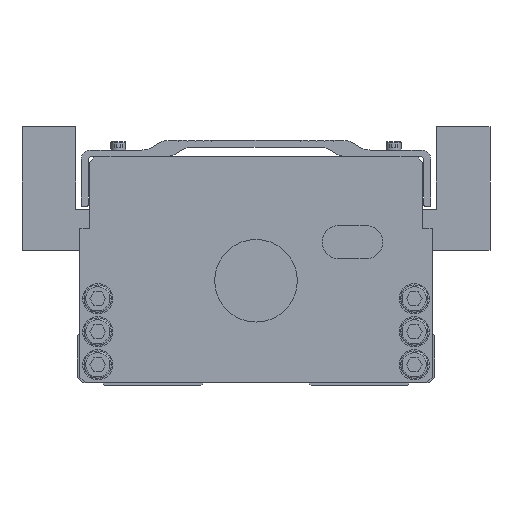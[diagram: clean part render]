
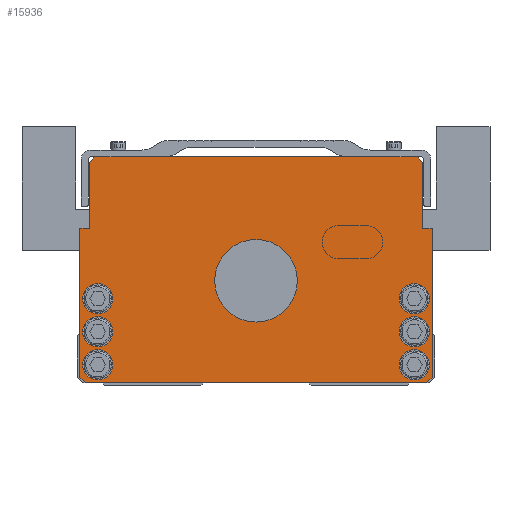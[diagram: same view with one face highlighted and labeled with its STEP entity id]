
A CAD part, front view. The second image highlights one B-rep face of the part: STEP entity #15936.
In plain terms, the highlighted planar face has unit normal (0, -1, 0).
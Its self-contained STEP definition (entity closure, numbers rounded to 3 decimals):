
#6784=EDGE_CURVE('',#8610,#8652,#20071,.T.);
#6918=VERTEX_POINT('',#20218);
#6992=EDGE_CURVE('',#11172,#10108,#20296,.T.);
#7162=VERTEX_POINT('',#20483);
#7318=EDGE_CURVE('',#9344,#11174,#20656,.T.);
#7704=VERTEX_POINT('',#21116);
#8096=EDGE_CURVE('',#18146,#16924,#21549,.T.);
#8196=VERTEX_POINT('',#21657);
#8372=EDGE_CURVE('',#8652,#8610,#21855,.T.);
#8610=VERTEX_POINT('',#22111);
#8652=VERTEX_POINT('',#22158);
#8774=EDGE_CURVE('',#10430,#9560,#22291,.T.);
#8956=EDGE_CURVE('',#9560,#10430,#22495,.T.);
#9200=EDGE_CURVE('',#19040,#7704,#22783,.T.);
#9326=VERTEX_POINT('',#22927);
#9344=VERTEX_POINT('',#22946);
#9560=VERTEX_POINT('',#23188);
#10104=EDGE_CURVE('',#16924,#18146,#23791,.T.);
#10108=VERTEX_POINT('',#23796);
#10346=EDGE_CURVE('',#7162,#9326,#24056,.T.);
#10430=VERTEX_POINT('',#24150);
#10480=EDGE_CURVE('',#15694,#11172,#24205,.T.);
#10570=EDGE_CURVE('',#9326,#7162,#24308,.T.);
#10592=EDGE_CURVE('',#8196,#14410,#24332,.T.);
#10918=EDGE_CURVE('',#6918,#14068,#24691,.T.);
#11172=VERTEX_POINT('',#24967);
#11174=VERTEX_POINT('',#24969);
#11622=EDGE_CURVE('',#14492,#14694,#25456,.T.);
#12218=VERTEX_POINT('',#26111);
#12372=EDGE_CURVE('',#14068,#18858,#26284,.T.);
#12902=EDGE_CURVE('',#18858,#19040,#26872,.T.);
#13108=VERTEX_POINT('',#27103);
#13190=EDGE_CURVE('',#18970,#6918,#27197,.T.);
#13334=VERTEX_POINT('',#27361);
#13354=EDGE_CURVE('',#13108,#18970,#27384,.T.);
#13604=EDGE_CURVE('',#10108,#17008,#27666,.T.);
#14068=VERTEX_POINT('',#28181);
#14410=VERTEX_POINT('',#28573);
#14492=VERTEX_POINT('',#28668);
#14694=VERTEX_POINT('',#28891);
#14752=EDGE_CURVE('',#14694,#14492,#28955,.T.);
#15694=VERTEX_POINT('',#30018);
#15936=ADVANCED_FACE('',(#30286,#30287,#30288,#30289,#30290,#30291,#30292,#30293),#30294,.T.);
#16068=EDGE_CURVE('',#12218,#18790,#30442,.T.);
#16620=EDGE_CURVE('',#17008,#8196,#31047,.T.);
#16924=VERTEX_POINT('',#31383);
#17008=VERTEX_POINT('',#31477);
#17566=EDGE_CURVE('',#13334,#15694,#32095,.T.);
#17992=EDGE_CURVE('',#14410,#13108,#32565,.T.);
#18146=VERTEX_POINT('',#32732);
#18148=EDGE_CURVE('',#11174,#9344,#32734,.T.);
#18790=VERTEX_POINT('',#33448);
#18858=VERTEX_POINT('',#33522);
#18970=VERTEX_POINT('',#33645);
#19040=VERTEX_POINT('',#33722);
#19338=EDGE_CURVE('',#18790,#12218,#34061,.T.);
#19810=EDGE_CURVE('',#7704,#13334,#34589,.T.);
#20071=CIRCLE('',#34901,15.0);
#20218=CARTESIAN_POINT('',(-33.25,0.0,83.0));
#20296=LINE('',#35211,#35212);
#20483=CARTESIAN_POINT('',(-63.0,0.0,31.5));
#20656=CIRCLE('',#35713,5.5);
#21116=CARTESIAN_POINT('',(60.5,0.0,57.0));
#21549=CIRCLE('',#36912,5.5);
#21657=CARTESIAN_POINT('',(-64.0,0.0,57.0));
#21855=CIRCLE('',#37358,15.0);
#22111=CARTESIAN_POINT('',(15.0,0.0,38.0));
#22158=CARTESIAN_POINT('',(-15.0,0.0,38.0));
#22291=CIRCLE('',#37969,5.5);
#22495=CIRCLE('',#38250,5.5);
#22783=LINE('',#38624,#38625);
#22927=CARTESIAN_POINT('',(-52.0,0.0,31.5));
#22946=CARTESIAN_POINT('',(-63.0,0.0,7.5));
#23188=CARTESIAN_POINT('',(63.0,0.0,19.5));
#23791=CIRCLE('',#40003,5.5);
#23796=CARTESIAN_POINT('',(-62.0,0.0,1.0));
#24056=CIRCLE('',#40361,5.5);
#24150=CARTESIAN_POINT('',(52.0,0.0,19.5));
#24205=LINE('',#40564,#40565);
#24308=CIRCLE('',#40709,5.5);
#24332=LINE('',#40743,#40744);
#24691=LINE('',#41240,#41241);
#24967=CARTESIAN_POINT('',(62.0,0.0,1.0));
#24969=CARTESIAN_POINT('',(-52.0,0.0,7.5));
#25456=CIRCLE('',#42335,5.5);
#26111=CARTESIAN_POINT('',(63.0,0.0,31.5));
#26284=LINE('',#43502,#43503);
#26872=LINE('',#44287,#44288);
#27103=CARTESIAN_POINT('',(-60.5,0.0,81.0));
#27197=LINE('',#44721,#44722);
#27361=CARTESIAN_POINT('',(64.0,0.0,57.0));
#27384=LINE('',#44973,#44974);
#27666=LINE('',#45369,#45370);
#28181=CARTESIAN_POINT('',(33.25,0.0,83.0));
#28573=CARTESIAN_POINT('',(-60.5,0.0,57.0));
#28668=CARTESIAN_POINT('',(63.0,0.0,7.5));
#28891=CARTESIAN_POINT('',(52.0,0.0,7.5));
#28955=CIRCLE('',#47121,5.5);
#30018=CARTESIAN_POINT('',(64.0,0.0,3.0));
#30286=FACE_BOUND('',#48952,.T.);
#30287=FACE_BOUND('',#48953,.T.);
#30288=FACE_BOUND('',#48954,.T.);
#30289=FACE_BOUND('',#48955,.T.);
#30290=FACE_BOUND('',#48956,.T.);
#30291=FACE_BOUND('',#48957,.T.);
#30292=FACE_BOUND('',#48958,.T.);
#30293=FACE_OUTER_BOUND('',#48959,.T.);
#30294=PLANE('',#48960);
#30442=CIRCLE('',#49171,5.5);
#31047=LINE('',#50052,#50053);
#31383=CARTESIAN_POINT('',(-63.0,0.0,19.5));
#31477=CARTESIAN_POINT('',(-64.0,0.0,3.0));
#32095=LINE('',#51492,#51493);
#32565=LINE('',#52135,#52136);
#32732=CARTESIAN_POINT('',(-52.0,0.0,19.5));
#32734=CIRCLE('',#52364,5.5);
#33448=CARTESIAN_POINT('',(52.0,0.0,31.5));
#33522=CARTESIAN_POINT('',(58.5,0.0,83.0));
#33645=CARTESIAN_POINT('',(-58.5,0.0,83.0));
#33722=CARTESIAN_POINT('',(60.5,0.0,81.0));
#34061=CIRCLE('',#54191,5.5);
#34589=LINE('',#54908,#54909);
#34901=AXIS2_PLACEMENT_3D('',#55213,#55214,#55215);
#35211=CARTESIAN_POINT('',(-62.0,0.0,1.0));
#35212=VECTOR('',#55404,1.0);
#35713=AXIS2_PLACEMENT_3D('',#55842,#55843,#55844);
#36912=AXIS2_PLACEMENT_3D('',#56830,#56831,#56832);
#37358=AXIS2_PLACEMENT_3D('',#57194,#57195,#57196);
#37969=AXIS2_PLACEMENT_3D('',#57626,#57627,#57628);
#38250=AXIS2_PLACEMENT_3D('',#57870,#57871,#57872);
#38624=CARTESIAN_POINT('',(60.5,0.0,57.0));
#38625=VECTOR('',#58317,1.0);
#40003=AXIS2_PLACEMENT_3D('',#59482,#59483,#59484);
#40361=AXIS2_PLACEMENT_3D('',#59806,#59807,#59808);
#40564=CARTESIAN_POINT('',(62.0,0.0,1.0));
#40565=VECTOR('',#60002,1.);
#40709=AXIS2_PLACEMENT_3D('',#60142,#60143,#60144);
#40743=CARTESIAN_POINT('',(-60.5,0.0,57.0));
#40744=VECTOR('',#60174,1.0);
#41240=CARTESIAN_POINT('',(58.5,0.0,83.0));
#41241=VECTOR('',#60618,1.0);
#42335=AXIS2_PLACEMENT_3D('',#61433,#61434,#61435);
#43502=CARTESIAN_POINT('',(58.5,0.0,83.0));
#43503=VECTOR('',#62322,1.0);
#44287=CARTESIAN_POINT('',(60.5,0.0,81.0));
#44288=VECTOR('',#62954,1.);
#44721=CARTESIAN_POINT('',(58.5,0.0,83.0));
#44722=VECTOR('',#63364,1.0);
#44973=CARTESIAN_POINT('',(-58.5,0.0,83.0));
#44974=VECTOR('',#63633,1.);
#45369=CARTESIAN_POINT('',(-64.0,0.0,3.0));
#45370=VECTOR('',#63961,1.);
#47121=AXIS2_PLACEMENT_3D('',#65403,#65404,#65405);
#48952=EDGE_LOOP('',(#67008,#67009));
#48953=EDGE_LOOP('',(#67010,#67011));
#48954=EDGE_LOOP('',(#67012,#67013));
#48955=EDGE_LOOP('',(#67014,#67015));
#48956=EDGE_LOOP('',(#67016,#67017));
#48957=EDGE_LOOP('',(#67018,#67019));
#48958=EDGE_LOOP('',(#67020,#67021));
#48959=EDGE_LOOP('',(#67022,#67023,#67024,#67025,#67026,#67027,#67028,#67029,#67030,#67031,#67032,#67033,#67034,#67035));
#48960=AXIS2_PLACEMENT_3D('',#67036,#67037,#67038);
#49171=AXIS2_PLACEMENT_3D('',#67228,#67229,#67230);
#50052=CARTESIAN_POINT('',(-64.0,0.0,57.0));
#50053=VECTOR('',#67924,1.0);
#51492=CARTESIAN_POINT('',(64.0,0.0,3.0));
#51493=VECTOR('',#69090,1.0);
#52135=CARTESIAN_POINT('',(-60.5,0.0,81.0));
#52136=VECTOR('',#69628,1.0);
#52364=AXIS2_PLACEMENT_3D('',#69785,#69786,#69787);
#54191=AXIS2_PLACEMENT_3D('',#71371,#71372,#71373);
#54908=CARTESIAN_POINT('',(64.0,0.0,57.0));
#54909=VECTOR('',#71999,1.0);
#55213=CARTESIAN_POINT('',(0.0,0.0,38.0));
#55214=DIRECTION('',(-0.0,1.0,0.0));
#55215=DIRECTION('',(1.0,0.0,0.0));
#55404=DIRECTION('',(-1.0,0.0,-0.0));
#55842=CARTESIAN_POINT('',(-57.5,0.0,7.5));
#55843=DIRECTION('',(-0.0,1.0,0.0));
#55844=DIRECTION('',(1.0,0.0,0.0));
#56830=CARTESIAN_POINT('',(-57.5,0.0,19.5));
#56831=DIRECTION('',(-0.0,1.0,0.0));
#56832=DIRECTION('',(1.0,0.0,0.0));
#57194=CARTESIAN_POINT('',(0.0,0.0,38.0));
#57195=DIRECTION('',(-0.0,1.0,0.0));
#57196=DIRECTION('',(1.0,0.0,0.0));
#57626=CARTESIAN_POINT('',(57.5,0.0,19.5));
#57627=DIRECTION('',(-0.0,1.0,0.0));
#57628=DIRECTION('',(1.0,0.0,0.0));
#57870=CARTESIAN_POINT('',(57.5,0.0,19.5));
#57871=DIRECTION('',(-0.0,1.0,0.0));
#57872=DIRECTION('',(1.0,0.0,0.0));
#58317=DIRECTION('',(-0.0,0.0,-1.0));
#59482=CARTESIAN_POINT('',(-57.5,0.0,19.5));
#59483=DIRECTION('',(-0.0,1.0,0.0));
#59484=DIRECTION('',(1.0,0.0,0.0));
#59806=CARTESIAN_POINT('',(-57.5,0.0,31.5));
#59807=DIRECTION('',(-0.0,1.0,0.0));
#59808=DIRECTION('',(1.0,0.0,0.0));
#60002=DIRECTION('',(-0.707,0.0,-0.707));
#60142=CARTESIAN_POINT('',(-57.5,0.0,31.5));
#60143=DIRECTION('',(-0.0,1.0,0.0));
#60144=DIRECTION('',(1.0,0.0,0.0));
#60174=DIRECTION('',(1.0,0.0,0.0));
#60618=DIRECTION('',(1.0,0.0,0.0));
#61433=CARTESIAN_POINT('',(57.5,0.0,7.5));
#61434=DIRECTION('',(-0.0,1.0,0.0));
#61435=DIRECTION('',(1.0,0.0,0.0));
#62322=DIRECTION('',(1.0,0.0,0.0));
#62954=DIRECTION('',(0.707,0.0,-0.707));
#63364=DIRECTION('',(1.0,0.0,0.0));
#63633=DIRECTION('',(0.707,0.0,0.707));
#63961=DIRECTION('',(-0.707,0.0,0.707));
#65403=CARTESIAN_POINT('',(57.5,0.0,7.5));
#65404=DIRECTION('',(-0.0,1.0,0.0));
#65405=DIRECTION('',(1.0,0.0,0.0));
#67008=ORIENTED_EDGE('',*,*,#6784,.T.);
#67009=ORIENTED_EDGE('',*,*,#8372,.T.);
#67010=ORIENTED_EDGE('',*,*,#16068,.T.);
#67011=ORIENTED_EDGE('',*,*,#19338,.T.);
#67012=ORIENTED_EDGE('',*,*,#8956,.T.);
#67013=ORIENTED_EDGE('',*,*,#8774,.T.);
#67014=ORIENTED_EDGE('',*,*,#11622,.T.);
#67015=ORIENTED_EDGE('',*,*,#14752,.T.);
#67016=ORIENTED_EDGE('',*,*,#10570,.T.);
#67017=ORIENTED_EDGE('',*,*,#10346,.T.);
#67018=ORIENTED_EDGE('',*,*,#8096,.T.);
#67019=ORIENTED_EDGE('',*,*,#10104,.T.);
#67020=ORIENTED_EDGE('',*,*,#18148,.T.);
#67021=ORIENTED_EDGE('',*,*,#7318,.T.);
#67022=ORIENTED_EDGE('',*,*,#13604,.F.);
#67023=ORIENTED_EDGE('',*,*,#6992,.F.);
#67024=ORIENTED_EDGE('',*,*,#10480,.F.);
#67025=ORIENTED_EDGE('',*,*,#17566,.F.);
#67026=ORIENTED_EDGE('',*,*,#19810,.F.);
#67027=ORIENTED_EDGE('',*,*,#9200,.F.);
#67028=ORIENTED_EDGE('',*,*,#12902,.F.);
#67029=ORIENTED_EDGE('',*,*,#12372,.F.);
#67030=ORIENTED_EDGE('',*,*,#10918,.F.);
#67031=ORIENTED_EDGE('',*,*,#13190,.F.);
#67032=ORIENTED_EDGE('',*,*,#13354,.F.);
#67033=ORIENTED_EDGE('',*,*,#17992,.F.);
#67034=ORIENTED_EDGE('',*,*,#10592,.F.);
#67035=ORIENTED_EDGE('',*,*,#16620,.F.);
#67036=CARTESIAN_POINT('',(0.,0.0,41.562));
#67037=DIRECTION('',(0.0,-1.0,0.0));
#67038=DIRECTION('',(1.0,0.0,0.0));
#67228=CARTESIAN_POINT('',(57.5,0.0,31.5));
#67229=DIRECTION('',(-0.0,1.0,0.0));
#67230=DIRECTION('',(1.0,0.0,0.0));
#67924=DIRECTION('',(0.0,0.0,1.0));
#69090=DIRECTION('',(-0.0,0.0,-1.0));
#69628=DIRECTION('',(0.0,0.0,1.0));
#69785=CARTESIAN_POINT('',(-57.5,0.0,7.5));
#69786=DIRECTION('',(-0.0,1.0,0.0));
#69787=DIRECTION('',(1.0,0.0,0.0));
#71371=CARTESIAN_POINT('',(57.5,0.0,31.5));
#71372=DIRECTION('',(-0.0,1.0,0.0));
#71373=DIRECTION('',(1.0,0.0,0.0));
#71999=DIRECTION('',(1.0,0.0,0.0));
